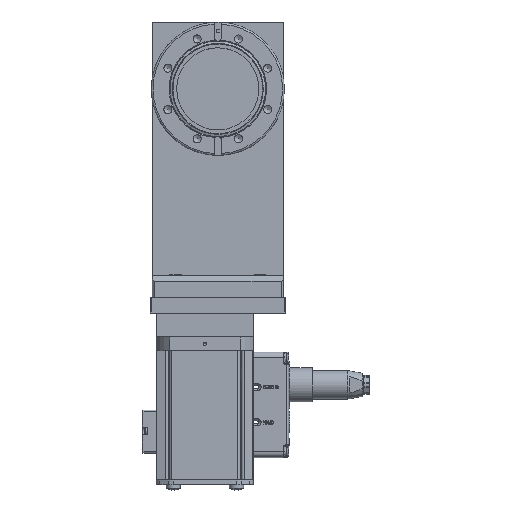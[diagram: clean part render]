
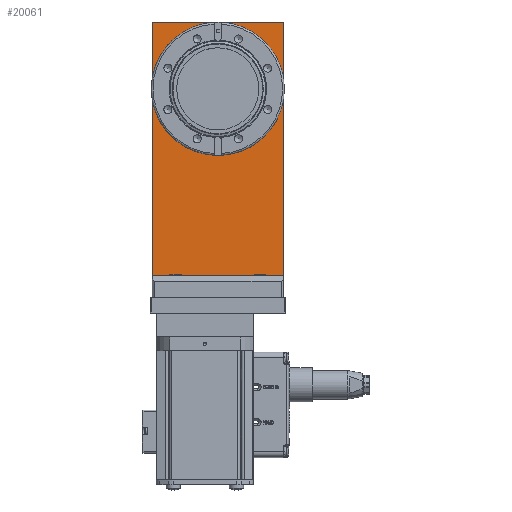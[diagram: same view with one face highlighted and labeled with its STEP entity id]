
A CAD part, top view. The second image highlights one B-rep face of the part: STEP entity #20061.
In plain terms, the highlighted planar face has unit normal (0, 0, 1).
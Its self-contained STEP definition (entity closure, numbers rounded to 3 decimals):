
#8883=LINE('',#64182,#12168);
#8888=LINE('',#64197,#12173);
#8890=LINE('',#64201,#12175);
#8893=LINE('',#64206,#12178);
#12168=VECTOR('',#53672,1.);
#12173=VECTOR('',#53679,1.);
#12175=VECTOR('',#53683,1.);
#12178=VECTOR('',#53688,1.);
#20061=ADVANCED_FACE('',(#23723,#23724),#22276,.T.);
#22276=PLANE('',#49326);
#23723=FACE_BOUND('',#25141,.T.);
#23724=FACE_BOUND('',#25142,.T.);
#25141=EDGE_LOOP('',(#29086,#29087,#29088,#29089));
#25142=EDGE_LOOP('',(#29090));
#29086=ORIENTED_EDGE('',*,*,#43127,.F.);
#29087=ORIENTED_EDGE('',*,*,#43133,.T.);
#29088=ORIENTED_EDGE('',*,*,#43138,.T.);
#29089=ORIENTED_EDGE('',*,*,#43135,.T.);
#29090=ORIENTED_EDGE('',*,*,#43140,.F.);
#39020=VERTEX_POINT('',#64181);
#39021=VERTEX_POINT('',#64183);
#39025=VERTEX_POINT('',#64196);
#39027=VERTEX_POINT('',#64202);
#39029=VERTEX_POINT('',#64211);
#43127=EDGE_CURVE('',#39020,#39021,#8883,.T.);
#43133=EDGE_CURVE('',#39020,#39025,#8888,.T.);
#43135=EDGE_CURVE('',#39027,#39021,#8890,.T.);
#43138=EDGE_CURVE('',#39025,#39027,#8893,.T.);
#43140=EDGE_CURVE('',#39029,#39029,#47930,.T.);
#47930=CIRCLE('',#49324,35.05);
#49324=AXIS2_PLACEMENT_3D('',#64210,#53693,#53694);
#49326=AXIS2_PLACEMENT_3D('',#64213,#53697,#53698);
#53672=DIRECTION('',(-1.,0.,0.));
#53679=DIRECTION('',(0.,1.,0.));
#53683=DIRECTION('',(0.,-1.,0.));
#53688=DIRECTION('',(-1.,0.,0.));
#53693=DIRECTION('',(0.,0.,1.));
#53694=DIRECTION('',(1.,0.,0.));
#53697=DIRECTION('',(0.,0.,1.));
#53698=DIRECTION('',(1.,0.,0.));
#64181=CARTESIAN_POINT('',(56.,-177.8,26.975));
#64182=CARTESIAN_POINT('',(0.,-177.8,26.975));
#64183=CARTESIAN_POINT('',(-56.,-177.8,26.975));
#64196=CARTESIAN_POINT('',(56.,57.05,26.975));
#64197=CARTESIAN_POINT('',(56.,-179.1,26.975));
#64201=CARTESIAN_POINT('',(-56.,57.05,26.975));
#64202=CARTESIAN_POINT('',(-56.,57.05,26.975));
#64206=CARTESIAN_POINT('',(56.,57.05,26.975));
#64210=CARTESIAN_POINT('',(0.,0.,
26.975));
#64211=CARTESIAN_POINT('',(35.05,0.,26.975));
#64213=CARTESIAN_POINT('',(0.,0.,
26.975));
